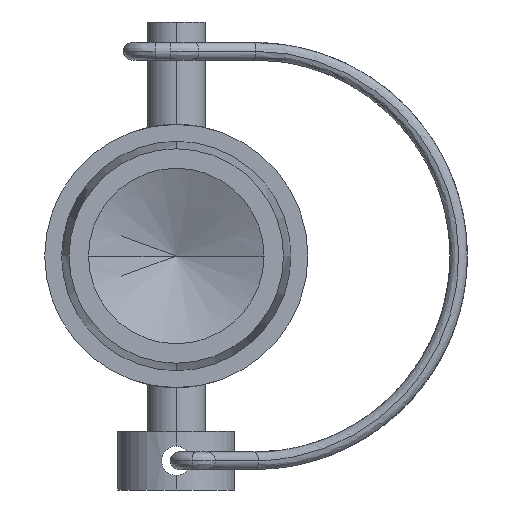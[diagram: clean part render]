
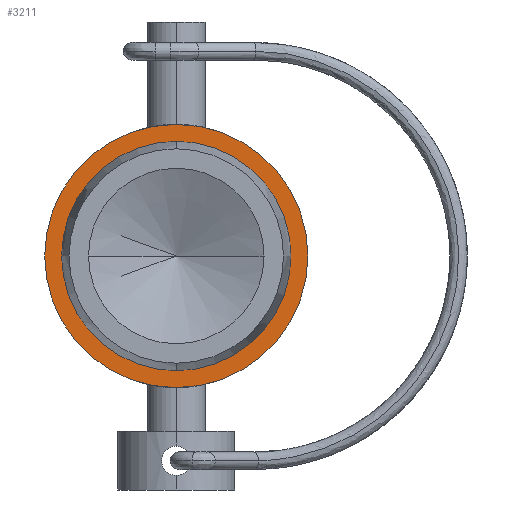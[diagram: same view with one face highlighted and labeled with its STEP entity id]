
A CAD part, left-side view. The second image highlights one B-rep face of the part: STEP entity #3211.
In plain terms, the highlighted planar face has unit normal (-1, 0, 0).
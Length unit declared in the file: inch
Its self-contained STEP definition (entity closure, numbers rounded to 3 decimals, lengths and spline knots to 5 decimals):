
#144 = EDGE_LOOP ( 'NONE', ( #1094, #2406 ) ) ;
#287 = DIRECTION ( 'NONE',  ( -1., 0., 0. ) ) ;
#349 = VERTEX_POINT ( 'NONE', #3024 ) ;
#428 = AXIS2_PLACEMENT_3D ( 'NONE', #2736, #749, #3063 ) ;
#501 = CIRCLE ( 'NONE', #836, 0.5625 ) ;
#565 = CARTESIAN_POINT ( 'NONE',  ( -0.25, 0., 0. ) ) ;
#715 = EDGE_CURVE ( 'NONE', #3541, #3884, #3963, .T. ) ;
#749 = DIRECTION ( 'NONE',  ( -1., 0., 0. ) ) ;
#768 = VERTEX_POINT ( 'NONE', #2922 ) ;
#836 = AXIS2_PLACEMENT_3D ( 'NONE', #3726, #1754, #4051 ) ;
#894 = DIRECTION ( 'NONE',  ( 0., 0., 1. ) ) ;
#1094 = ORIENTED_EDGE ( 'NONE', *, *, #4083, .T. ) ;
#1173 = FACE_OUTER_BOUND ( 'NONE', #144, .T. ) ;
#1261 = ORIENTED_EDGE ( 'NONE', *, *, #1304, .F. ) ;
#1304 = EDGE_CURVE ( 'NONE', #768, #349, #1962, .T. ) ;
#1363 = CARTESIAN_POINT ( 'NONE',  ( -0.25, 0., 0. ) ) ;
#1455 = EDGE_CURVE ( 'NONE', #349, #768, #3495, .T. ) ;
#1705 = DIRECTION ( 'NONE',  ( 0., 0., 1. ) ) ;
#1754 = DIRECTION ( 'NONE',  ( -1., 0., 0. ) ) ;
#1807 = ORIENTED_EDGE ( 'NONE', *, *, #1455, .F. ) ;
#1962 = CIRCLE ( 'NONE', #3608, 0.49 ) ;
#1970 = FACE_BOUND ( 'NONE', #3717, .T. ) ;
#2179 = AXIS2_PLACEMENT_3D ( 'NONE', #565, #2880, #894 ) ;
#2406 = ORIENTED_EDGE ( 'NONE', *, *, #715, .T. ) ;
#2602 = DIRECTION ( 'NONE',  ( 0., 0., 1. ) ) ;
#2736 = CARTESIAN_POINT ( 'NONE',  ( -0.25, 0., 0. ) ) ;
#2880 = DIRECTION ( 'NONE',  ( -1., 0., 0. ) ) ;
#2922 = CARTESIAN_POINT ( 'NONE',  ( -0.25, 0., -0.49 ) ) ;
#3024 = CARTESIAN_POINT ( 'NONE',  ( -0.25, 0., 0.49 ) ) ;
#3063 = DIRECTION ( 'NONE',  ( 0., 0., 1. ) ) ;
#3211 = ADVANCED_FACE ( 'NONE', ( #1173, #1970 ), #4237, .T. ) ;
#3495 = CIRCLE ( 'NONE', #428, 0.49 ) ;
#3541 = VERTEX_POINT ( 'NONE', #3660 ) ;
#3574 = CARTESIAN_POINT ( 'NONE',  ( -0.25, 0., -0.49 ) ) ;
#3608 = AXIS2_PLACEMENT_3D ( 'NONE', #1363, #3673, #1705 ) ;
#3660 = CARTESIAN_POINT ( 'NONE',  ( -0.25, 0., -0.5625 ) ) ;
#3673 = DIRECTION ( 'NONE',  ( -1., 0., 0. ) ) ;
#3717 = EDGE_LOOP ( 'NONE', ( #1807, #1261 ) ) ;
#3726 = CARTESIAN_POINT ( 'NONE',  ( -0.25, 0., 0. ) ) ;
#3742 = AXIS2_PLACEMENT_3D ( 'NONE', #3574, #287, #2602 ) ;
#3884 = VERTEX_POINT ( 'NONE', #3978 ) ;
#3963 = CIRCLE ( 'NONE', #2179, 0.5625 ) ;
#3978 = CARTESIAN_POINT ( 'NONE',  ( -0.25, 0., 0.5625 ) ) ;
#4051 = DIRECTION ( 'NONE',  ( 0., 0., 1. ) ) ;
#4083 = EDGE_CURVE ( 'NONE', #3884, #3541, #501, .T. ) ;
#4237 = PLANE ( 'NONE',  #3742 ) ;
